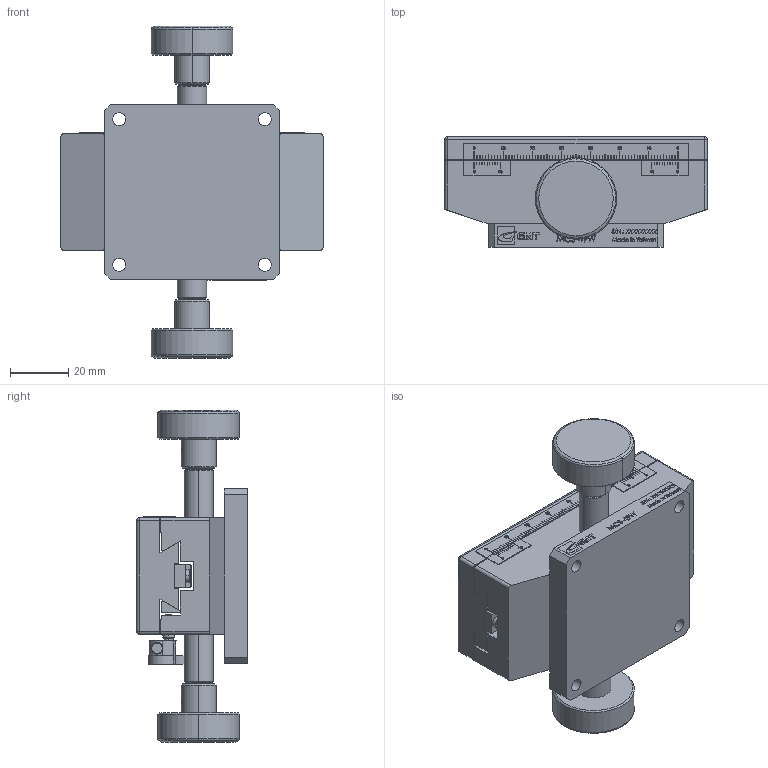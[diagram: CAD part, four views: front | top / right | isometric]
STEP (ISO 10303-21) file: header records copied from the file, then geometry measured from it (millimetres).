
FILE_DESCRIPTION (( 'STEP AP203' ), '1' );
FILE_NAME ('MCS-49W(«¬¿ý).STEP', '2013-08-23T11:14:06', ( '' ), ( '' ), 'SwSTEP 2.0', 'SolidWorks 2013', '' );
FILE_SCHEMA (( 'CONFIG_CONTROL_DESIGN' ));
Length unit declared in the file: millimetre
Products named in the file (3): Group3^MCS-49W(型錄); MCS-49W(型錄); Group1^MCS-49W(型錄)
Assembly tree (2 placements, depth 2):
  MCS-49W(型錄)
    Group1^MCS-49W(型錄)
    Group3^MCS-49W(型錄)
Bounding box: 90 x 38 x 114 mm (x, y, z)
Volume: 146198.5 mm3; surface area: 41096 mm2
Topology: 2 solids, 6 shells, 1519 faces, 4077 edges, 2659 vertices
Faces by surface type: plane 999, bspline 265, cylinder 167, cone 68, torus 12, sphere 8
Entity records: 63858 total; most frequent: CARTESIAN_POINT 27274, ORIENTED_EDGE 8124, DIRECTION 6401, EDGE_CURVE 4062, LINE 2983, VECTOR 2983, VERTEX_POINT 2658, AXIS2_PLACEMENT_3D 1709
